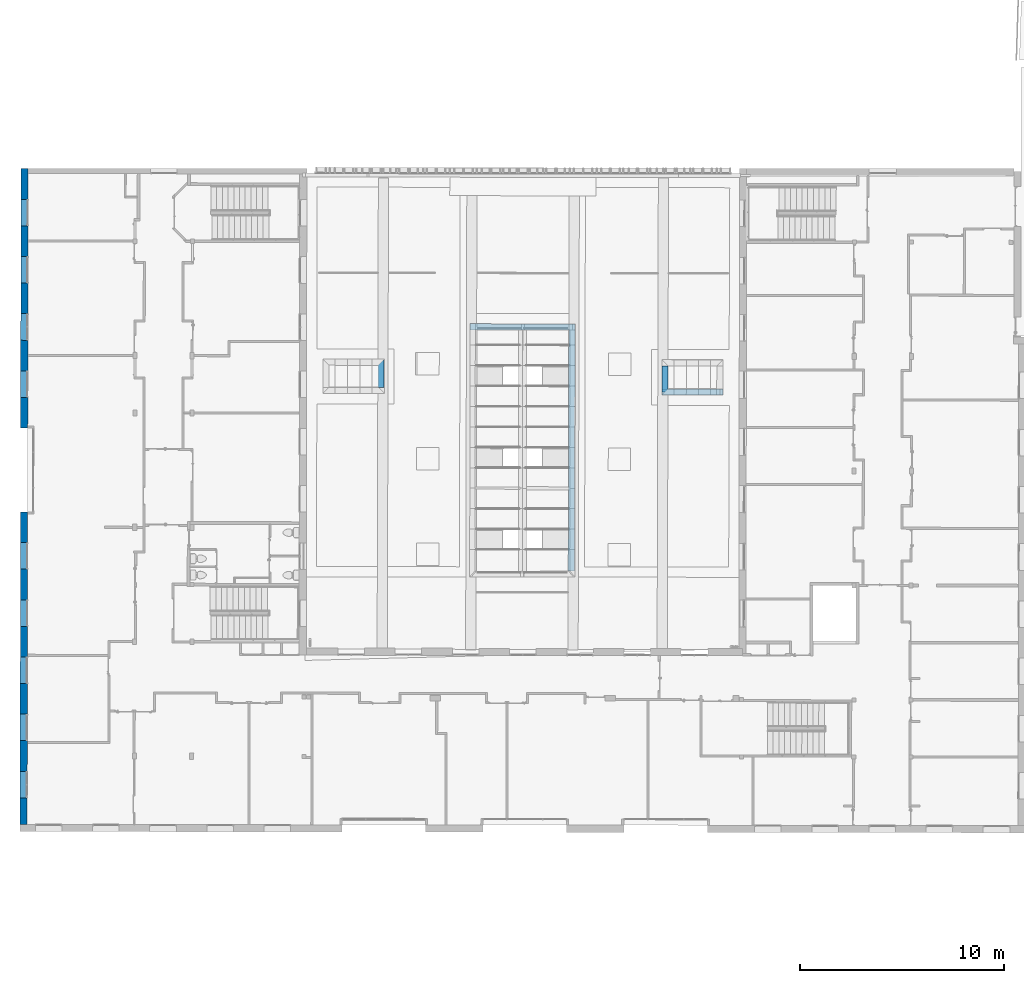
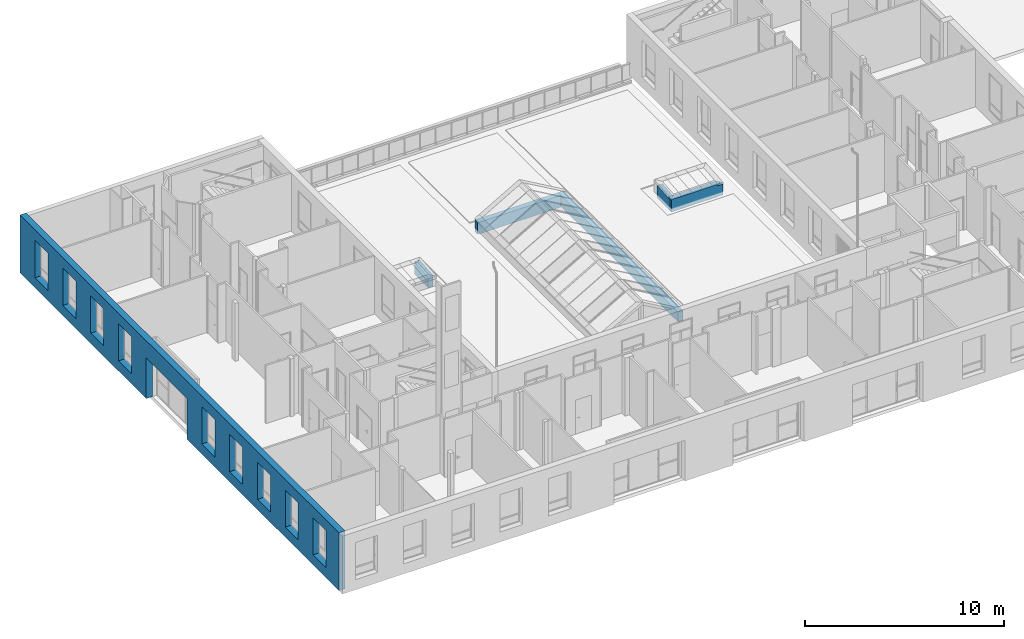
# One storey, part 93 of 101: 6 walls.
"""IFC2X3 building model written with IfcOpenShell, lengths in metres."""

from ifc_helpers import new_model, entity, si_unit, converted_unit, derived_unit, direction, frame, origin, place, context, subcontext, project, spatial, faceted_brep, material, layer, layer_set, type_object, element, save


model = new_model("IFC2X3")

# Units and contexts
model_context = context("Model", 3, precision=1e-05, world=origin(), true_north=direction((6.123233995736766e-17, 1.0)))
body_context = subcontext(model_context, "Body", "Model", "MODEL_VIEW")
ifc_project = project(units=[si_unit("LENGTHUNIT", "METRE"), si_unit("AREAUNIT", "SQUARE_METRE"), converted_unit("PLANEANGLEUNIT", "DEGREE", entity("IfcPlaneAngleMeasure", 0.017453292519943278), si_unit("PLANEANGLEUNIT", "RADIAN"), dimensions=[0, 0, 0, 0, 0, 0, 0]), derived_unit("THERMALTRANSMITTANCEUNIT", [(si_unit("MASSUNIT", "GRAM", prefix="KILO"), 1), (si_unit("THERMODYNAMICTEMPERATUREUNIT", "KELVIN"), -1), (si_unit("TIMEUNIT", "SECOND"), -3)])], contexts=[model_context])

# Site, building, storey
site_placement = place(None, frame((1253.6752467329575, 2072.143113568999, 91.49999999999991), z_axis=(0.0, 0.0, 1.0), x_axis=(0.7237211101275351, 0.6900925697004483, 0.0)))
site = spatial("IfcSite", under=ifc_project, at=site_placement, Name="Surface", CompositionType="ELEMENT")
building_placement = place(site_placement, origin())
building = spatial("IfcBuilding", under=site, at=building_placement, CompositionType="ELEMENT")
storey_placement = place(building_placement, origin())
storey = spatial("IfcBuildingStorey", under=building, at=storey_placement, Name="0- Rdc", CompositionType="ELEMENT", Elevation=-5.764692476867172e-13)

# Walls
ifc_material_1 = material(Name="OMD_Béton blanc")
ifc_layer_1 = layer(ifc_material_1, 0.35)
ifc_layer_set_1 = layer_set([ifc_layer_1], Name="Mur de base:MUR 35")
wall_type_1 = type_object("IfcWallType", Name="Mur de base:MUR 35", PredefinedType="STANDARD", material=ifc_layer_set_1)
wall_1_placement = place(storey_placement, frame((144.1068068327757, 4.397537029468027, 0.0), z_axis=(0.0, 0.0, 1.0), x_axis=(0.6911544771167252, 0.7227070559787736, 0.0)))
element("IfcWall", 1, at=wall_1_placement, inside=storey, type_object=wall_type_1, Name="Mur de base:MUR 35", ObjectType="Mur de base:MUR 35", context=body_context, shape_type="Brep", body=[
    faceted_brep([(1.3014199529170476, -0.17500000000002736, 0.6200000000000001), (1.3014199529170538, -0.17500000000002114, 2.8999999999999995), (2.601115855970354, -0.1750000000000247, 2.8999999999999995), (2.601115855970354, -0.1750000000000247, 0.6200000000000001), (4.0964198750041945, -0.17500000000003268, 0.6200000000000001), (4.0964198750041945, -0.17500000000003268, 2.8999999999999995), (5.396115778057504, -0.17500000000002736, 2.8999999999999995), (5.396115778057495, -0.17500000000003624, 0.6200000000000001), (6.896419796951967, -0.17500000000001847, 0.6200000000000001), (6.896419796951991, -0.17500000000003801, 2.8999999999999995), (8.196115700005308, -0.1750000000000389, 2.8999999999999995), (8.196115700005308, -0.1750000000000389, 0.6200000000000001), (9.696419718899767, -0.17500000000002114, 0.6200000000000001), (9.696419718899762, -0.17500000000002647, 2.8999999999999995), (10.996115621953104, -0.1750000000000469, 2.8999999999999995), (10.996115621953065, -0.17500000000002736, 0.6200000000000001), (12.496419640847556, -0.17500000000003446, 0.6200000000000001), (12.496419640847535, -0.17500000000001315, 2.8999999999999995), (13.796115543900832, -0.17500000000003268, 2.8999999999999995), (13.796115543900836, -0.1750000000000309, 0.6200000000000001), (20.896419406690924, -0.17500000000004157, 0.6200000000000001), (20.896419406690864, -0.1750000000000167, 2.8999999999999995), (22.196115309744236, -0.17500000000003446, 2.8999999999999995), (22.196115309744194, -0.17500000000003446, 0.6200000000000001), (23.69641932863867, -0.1750000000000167, 0.6200000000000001), (23.69641932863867, -0.1750000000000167, 2.8999999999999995), (24.996115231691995, -0.17500000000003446, 2.8999999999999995), (24.996115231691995, -0.17500000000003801, 0.6200000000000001), (26.496419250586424, -0.17500000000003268, 0.6200000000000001), (26.496419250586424, -0.17500000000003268, 2.8999999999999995), (27.79611515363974, -0.17500000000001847, 2.8999999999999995), (27.79611515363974, -0.17500000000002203, 0.6200000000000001), (29.296419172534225, -0.17500000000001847, 0.6200000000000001), (29.296419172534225, -0.17500000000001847, 2.8999999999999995), (30.596115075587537, -0.17500000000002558, 2.8999999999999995), (30.596115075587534, -0.17500000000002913, 0.6200000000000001), (32.11322353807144, -0.17500000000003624, 3.5499999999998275), (31.8532235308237, -0.17500000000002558, 3.5499999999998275), (8.264121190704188e-05, -0.1750000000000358, 3.5499999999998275), (8.264121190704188e-05, -0.1750000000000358, 0.0), (15.30004174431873, -0.17500000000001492, 0.0), (15.30004174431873, -0.17500000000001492, 2.4999999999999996), (19.400041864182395, -0.1750000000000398, 2.4999999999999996), (19.400041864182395, -0.1750000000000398, 0.0), (31.8532235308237, -0.17500000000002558, 0.0), (32.11322353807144, -0.17500000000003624, 0.0), (1.3014199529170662, 0.1749999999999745, 2.8999999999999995), (1.3014199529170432, 0.17499999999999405, 0.6200000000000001), (2.6011158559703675, 0.1749999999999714, 0.6200000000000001), (2.6011158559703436, 0.17499999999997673, 2.8999999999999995), (4.096419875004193, 0.17499999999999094, 2.8999999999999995), (4.096419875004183, 0.17499999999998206, 0.6200000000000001), (5.396115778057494, 0.17499999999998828, 0.6200000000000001), (5.396115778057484, 0.1749999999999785, 2.8999999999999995), (6.89641979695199, 0.1749999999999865, 2.8999999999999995), (6.896419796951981, 0.17499999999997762, 0.6200000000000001), (8.19611570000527, 0.17499999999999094, 0.6200000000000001), (8.196115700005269, 0.17499999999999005, 2.8999999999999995), (9.69641971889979, 0.1749999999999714, 2.8999999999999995), (9.696419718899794, 0.17499999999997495, 0.6200000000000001), (10.996115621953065, 0.17499999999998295, 0.6200000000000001), (10.996115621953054, 0.17499999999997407, 2.8999999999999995), (12.496419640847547, 0.17499999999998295, 2.8999999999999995), (12.49641964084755, 0.1749999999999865, 0.6200000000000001), (13.796115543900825, 0.1749999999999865, 0.6200000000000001), (13.796115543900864, 0.17499999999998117, 2.8999999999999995), (20.89641940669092, 0.17499999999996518, 2.8999999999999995), (20.896419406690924, 0.17499999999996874, 0.6200000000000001), (22.196115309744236, 0.17499999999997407, 0.6200000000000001), (22.196115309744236, 0.17499999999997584, 2.8999999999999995), (23.696419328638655, 0.17499999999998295, 2.8999999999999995), (23.696419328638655, 0.17499999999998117, 0.6200000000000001), (24.996115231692, 0.1749999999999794, 0.6200000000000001), (24.996115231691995, 0.17499999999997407, 2.8999999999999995), (26.496419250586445, 0.1749999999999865, 2.8999999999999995), (26.496419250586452, 0.1749999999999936, 0.6200000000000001), (27.79611515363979, 0.17499999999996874, 0.6200000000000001), (27.79611515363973, 0.1749999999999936, 2.8999999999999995), (29.29641917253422, 0.1749999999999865, 2.8999999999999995), (29.296419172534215, 0.17499999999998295, 0.6200000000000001), (30.596115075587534, 0.17499999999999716, 0.6200000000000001), (30.596115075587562, 0.17499999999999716, 2.8999999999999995), (0.0, 0.17499999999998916, 3.5499999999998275), (32.11314089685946, 0.17499999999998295, 3.5499999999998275), (32.11314089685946, 0.17499999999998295, 0.0), (19.40004186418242, 0.17499999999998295, 0.0), (19.40004186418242, 0.17499999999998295, 2.4999999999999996), (15.300041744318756, 0.1749999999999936, 2.4999999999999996), (15.300041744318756, 0.1749999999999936, 0.0), (0.0, 0.17499999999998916, 0.0)], [[[0, 1, 2, 3], [4, 5, 6, 7], [8, 9, 10, 11], [12, 13, 14, 15], [16, 17, 18, 19], [20, 21, 22, 23], [24, 25, 26, 27], [28, 29, 30, 31], [32, 33, 34, 35], [36, 37, 38, 39, 40, 41, 42, 43, 44, 45]], [[46, 47, 48, 49], [50, 51, 52, 53], [54, 55, 56, 57], [58, 59, 60, 61], [62, 63, 64, 65], [66, 67, 68, 69], [70, 71, 72, 73], [74, 75, 76, 77], [78, 79, 80, 81], [82, 83, 84, 85, 86, 87, 88, 89]], [[38, 37, 36, 83, 82]], [[36, 45, 84, 83]], [[39, 38, 82, 89]], [[0, 47, 46, 1]], [[1, 46, 49, 2]], [[2, 49, 48, 3]], [[47, 0, 3, 48]], [[4, 51, 50, 5]], [[5, 50, 53, 6]], [[6, 53, 52, 7]], [[51, 4, 7, 52]], [[8, 55, 54, 9]], [[9, 54, 57, 10]], [[10, 57, 56, 11]], [[55, 8, 11, 56]], [[12, 59, 58, 13]], [[13, 58, 61, 14]], [[14, 61, 60, 15]], [[59, 12, 15, 60]], [[16, 63, 62, 17]], [[17, 62, 65, 18]], [[18, 65, 64, 19]], [[63, 16, 19, 64]], [[20, 67, 66, 21]], [[21, 66, 69, 22]], [[22, 69, 68, 23]], [[67, 20, 23, 68]], [[24, 71, 70, 25]], [[25, 70, 73, 26]], [[26, 73, 72, 27]], [[71, 24, 27, 72]], [[28, 75, 74, 29]], [[29, 74, 77, 30]], [[30, 77, 76, 31]], [[75, 28, 31, 76]], [[32, 79, 78, 33]], [[33, 78, 81, 34]], [[34, 81, 80, 35]], [[79, 32, 35, 80]], [[41, 40, 88, 87]], [[43, 42, 86, 85]], [[39, 89, 88, 40]], [[84, 45, 44, 43, 85]], [[41, 87, 86, 42]]], outer=[[False, False, False, False, False, False, False, False, False, True], [False, False, False, False, False, False, False, False, False, True], [True], [True], [True], [True], [True], [True], [True], [True], [True], [True], [True], [True], [True], [True], [True], [True], [True], [True], [True], [True], [True], [True], [True], [True], [True], [True], [True], [True], [True], [True], [True], [True], [True], [True], [True], [True], [True], [True], [True], [True], [True], [True], [True], [True]]),
])
ifc_material_2 = material(Name="Maçonnerie - Isolant")
ifc_layer_2 = layer(ifc_material_2, 0.1)
ifc_material_3 = material(Name="Béton - Béton coulé sur place")
ifc_layer_3 = layer(ifc_material_3, 0.2)
ifc_layer_set_2 = layer_set([ifc_layer_2, ifc_layer_3], Name="Mur de base:BA 20 + isol")
wall_type_2 = type_object("IfcWallType", Name="Mur de base:BA 20 + isol", PredefinedType="STANDARD", material=ifc_layer_set_2)
wall_2_placement = place(storey_placement, frame((176.72874914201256, 6.944276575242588, -0.5575574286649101), z_axis=(0.0, 0.0, 1.0), x_axis=(0.7228702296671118, -0.6909838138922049, 0.0)))
element("IfcWall", 2, at=wall_2_placement, inside=storey, type_object=wall_type_2, Name="Mur de base:BA 20 + isol", ObjectType="Mur de base:BA 20 + isol", context=body_context, shape_type="Brep", body=[
    faceted_brep([(0.14999999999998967, -0.15000000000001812, 0.0), (4.831066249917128, -0.15000000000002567, 0.0), (4.831066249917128, -0.15000000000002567, 0.7222781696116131), (0.1499999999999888, -0.15000000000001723, 0.7222781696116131), (0.1499999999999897, -0.15000000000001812, 0.7217605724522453), (0.0, -0.15000000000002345, 0.7217605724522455), (0.0, -0.15000000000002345, 0.015466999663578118), (0.14999999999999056, -0.1500000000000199, 0.015466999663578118), (0.14999999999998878, 0.1499999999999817, 0.0), (0.14999999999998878, 0.1499999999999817, 0.015466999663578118), (0.0, 0.1499999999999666, 0.015466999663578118), (0.0, 0.14999999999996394, 0.7217605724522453), (0.14999999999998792, 0.1499999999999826, 0.7217605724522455), (0.14999999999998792, 0.1499999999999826, 0.7222781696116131), (4.831478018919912, 0.1499999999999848, 0.7222781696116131), (4.831478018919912, 0.1499999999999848, 0.01329509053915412), (4.831478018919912, 0.1499999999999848, 0.0), (4.831340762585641, 0.04999999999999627, 0.0), (4.831340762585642, 0.04999999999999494, 0.7222781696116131), (0.14999999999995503, 0.049999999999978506, 0.0), (0.14999999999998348, 0.04999999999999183, 0.7222781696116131)], [[[0, 1, 2, 3, 4, 5, 6, 7]], [[8, 9, 10, 11, 12, 13, 14, 15, 16]], [[2, 1, 17, 16, 15, 14, 18]], [[1, 0, 19, 17]], [[0, 7, 9, 8, 19]], [[6, 10, 9, 7]], [[4, 3, 20, 13, 12]], [[4, 12, 11, 5]], [[6, 5, 11, 10]], [[19, 8, 16, 17]], [[18, 14, 13, 20]], [[3, 2, 18, 20]]]),
])
wall_3_placement = place(storey_placement, frame((180.43350144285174, 3.6107349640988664, -0.5442660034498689), z_axis=(0.0, 0.0, 1.0), x_axis=(-0.6919753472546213, -0.7219211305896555, 0.0)))
element("IfcWall", 3, at=wall_3_placement, inside=storey, type_object=wall_type_2, Name="Mur de base:BA 20 + isol", ObjectType="Mur de base:BA 20 + isol", context=body_context, shape_type="Brep", body=[
    faceted_brep([(0.00041176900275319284, -0.14999999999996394, 3.6653241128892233e-06), (12.093901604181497, -0.14999999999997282, 0.10765275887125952), (12.093901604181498, -0.1499999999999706, 0.7089867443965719), (0.30041205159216, -0.14999999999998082, 0.7089867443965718), (0.00041176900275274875, -0.14999999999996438, 0.7089867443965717), (0.0, 0.15000000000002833, 0.0), (0.0, 0.1500000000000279, 0.7089867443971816), (12.093626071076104, 0.15000000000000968, 0.7089867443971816), (12.093626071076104, 0.15000000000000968, 0.10765030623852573), (0.00013725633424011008, 0.05000000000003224, 0.7089867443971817), (12.093717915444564, 0.05000000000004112, 0.7089867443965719)], [[[0, 1, 2, 3, 4]], [[5, 6, 7, 8]], [[0, 4, 9, 6, 5]], [[2, 1, 8, 7, 10]], [[4, 3, 2, 10, 9]], [[1, 0, 5, 8]], [[10, 7, 6, 9]]]),
])
wall_4_placement = place(storey_placement, frame((171.51555754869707, 7.805383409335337, -0.53), z_axis=(0.0, 0.0, 1.0), x_axis=(0.6919753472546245, 0.7219211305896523, 0.0)))
element("IfcWall", 4, at=wall_4_placement, inside=storey, type_object=wall_type_2, Name="Mur de base:BA 20 + isol", ObjectType="Mur de base:BA 20 + isol", context=body_context, shape_type="Brep", body=[
    faceted_brep([(0.0004117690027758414, -0.14999999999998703, 0.0), (1.379466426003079, -0.1499999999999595, 0.0), (1.379466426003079, -0.1499999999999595, 0.7803378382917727), (0.0004117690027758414, -0.14999999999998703, 0.6596862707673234), (0.0004117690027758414, -0.14999999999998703, 0.636066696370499), (0.0004117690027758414, -0.14999999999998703, 0.0173369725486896), (0.0, 0.15000000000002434, 0.0), (0.0, 0.15000000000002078, 0.659650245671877), (1.3790546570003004, 0.1500000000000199, 0.7803018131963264), (1.3790546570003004, 0.1500000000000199, 0.7798871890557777), (1.3790546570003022, 0.15000000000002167, 0.0), (1.0790543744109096, 0.15000000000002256, 0.0), (0.0002745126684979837, -0.049999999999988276, 0.0), (1.379329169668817, -0.04999999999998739, 0.0)], [[[0, 1, 2, 3, 4, 5]], [[6, 7, 8, 9, 10, 11]], [[0, 5, 4, 3, 7, 6, 12]], [[2, 1, 13, 10, 9, 8]], [[3, 2, 8, 7]], [[1, 0, 12, 13]], [[12, 6, 11, 10, 13]]]),
])
wall_5_placement = place(storey_placement, frame((181.31959607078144, -1.840324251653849, -0.53), z_axis=(0.0, 0.0, 1.0), x_axis=(0.7228702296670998, -0.6909838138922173, 0.0)))
element("IfcWall", 5, at=wall_5_placement, inside=storey, type_object=wall_type_2, Name="Mur de base:BA 20 + isol", ObjectType="Mur de base:BA 20 + isol", context=body_context, shape_type="Brep", body=[
    faceted_brep([(0.0, -0.15000000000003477, 0.0), (2.6863488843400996, -0.1500000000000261, 0.0), (2.686348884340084, -0.15000000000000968, 0.013269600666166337), (2.986348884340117, -0.15000000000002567, 0.013269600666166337), (2.9863488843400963, -0.15000000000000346, 0.675525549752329), (2.686348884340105, -0.15000000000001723, 0.675525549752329), (2.686348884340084, -0.15000000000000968, 0.7578049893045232), (2.836348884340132, -0.15000000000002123, 0.7578049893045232), (2.836348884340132, -0.15000000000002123, 0.7604425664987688), (0.0, -0.150000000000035, 0.7604425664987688), (0.0004117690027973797, 0.1499999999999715, 0.0173369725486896), (0.0004117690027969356, 0.1499999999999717, 0.7604425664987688), (2.8363488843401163, 0.1499999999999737, 0.7604425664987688), (2.8363488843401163, 0.1499999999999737, 0.7578049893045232), (2.6863488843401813, 0.14999999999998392, 0.7578049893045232), (2.6863488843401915, 0.14999999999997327, 0.675525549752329), (2.986348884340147, 0.14999999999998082, 0.675525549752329), (2.9863488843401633, 0.1499999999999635, 0.013269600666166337), (2.6863488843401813, 0.14999999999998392, 0.013269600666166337), (2.6863488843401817, 0.14999999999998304, 0.0173369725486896), (2.686348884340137, -0.05000000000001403, 0.0), (2.686348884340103, -0.05000000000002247, 0.013269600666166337), (2.686348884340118, -0.05000000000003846, 0.01733697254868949), (2.836348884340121, -0.05000000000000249, 0.7604425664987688), (0.00013725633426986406, -0.05000000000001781, 0.7604425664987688), (0.00013725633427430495, -0.05000000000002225, 0.0), (0.0001372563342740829, -0.05000000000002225, 0.0173369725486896)], [[[0, 1, 2, 3, 4, 5, 6, 7, 8, 9]], [[10, 11, 12, 13, 14, 15, 16, 17, 18, 19]], [[2, 1, 20, 21]], [[6, 5, 15, 14]], [[4, 3, 17, 16]], [[21, 22, 19, 18]], [[17, 3, 2, 21, 18]], [[9, 8, 23, 24]], [[1, 0, 25, 20]], [[20, 25, 26, 22, 21]], [[15, 5, 4, 16]], [[23, 12, 11, 24]], [[0, 9, 24, 11, 10, 26, 25]], [[26, 10, 19, 22]], [[8, 7, 13, 12, 23]], [[13, 7, 6, 14]]]),
])
wall_6_placement = place(storey_placement, frame((182.31226352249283, -1.0217665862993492, -0.53), z_axis=(0.0, 0.0, 1.0), x_axis=(-0.6919753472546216, -0.7219211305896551, 0.0)))
element("IfcWall", 6, at=wall_6_placement, inside=storey, type_object=wall_type_2, Name="Mur de base:BA 20 + isol", ObjectType="Mur de base:BA 20 + isol", context=body_context, shape_type="Brep", body=[
    faceted_brep([(0.00041176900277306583, -0.1499999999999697, 0.0), (1.2850939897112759, -0.14999999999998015, 0.0), (1.2850939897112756, -0.14999999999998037, 0.6617352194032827), (0.00041176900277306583, -0.1499999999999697, 0.7741302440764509), (0.0, 0.14999999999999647, 0.0), (0.0, 0.1499999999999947, 0.6650000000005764), (0.0, 0.14999999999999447, 0.7741662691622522), (1.2850939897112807, 0.1499999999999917, 0.6617352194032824), (1.2850939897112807, 0.1499999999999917, 0.0), (1.2850939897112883, -0.05000000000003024, 0.0), (0.00027451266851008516, -0.05000000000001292, 0.0)], [[[0, 1, 2, 3]], [[4, 5, 6, 7, 8]], [[2, 1, 9, 8, 7]], [[3, 2, 7, 6]], [[1, 0, 10, 9]], [[0, 3, 6, 5, 4, 10]], [[10, 4, 8, 9]]]),
])

save(model, "model.ifc")
